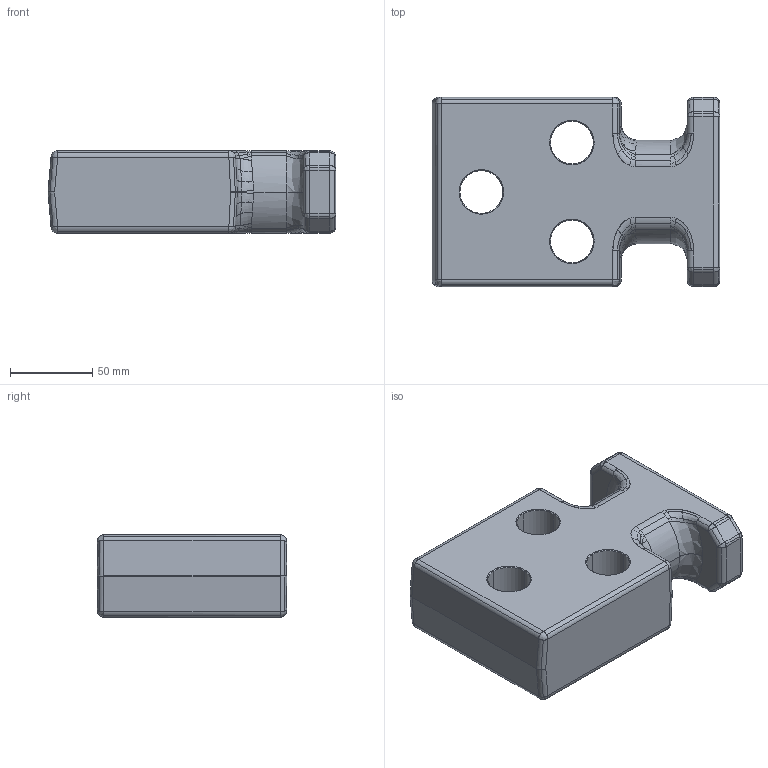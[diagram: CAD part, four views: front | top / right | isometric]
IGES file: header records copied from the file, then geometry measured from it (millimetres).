
Global section: file name: E:\UnigraphicsGraphicData\MISUMI_PRESS-PARTS\IGES\3d_chp63_03556_r00.igs; native system: NX V5.0; preprocessor: UGS NX IGES V5.0; author: MISUMI; date: 20110105.160230; units: millimetre
Bounding box: 175 x 115 x 50 mm (x, y, z)
Surface area: 73635.8 mm2 (no closed solid volume)
Topology: 0 solids, 0 shells, 291 faces, 1520 edges, 1496 vertices
Faces by surface type: bspline 291
